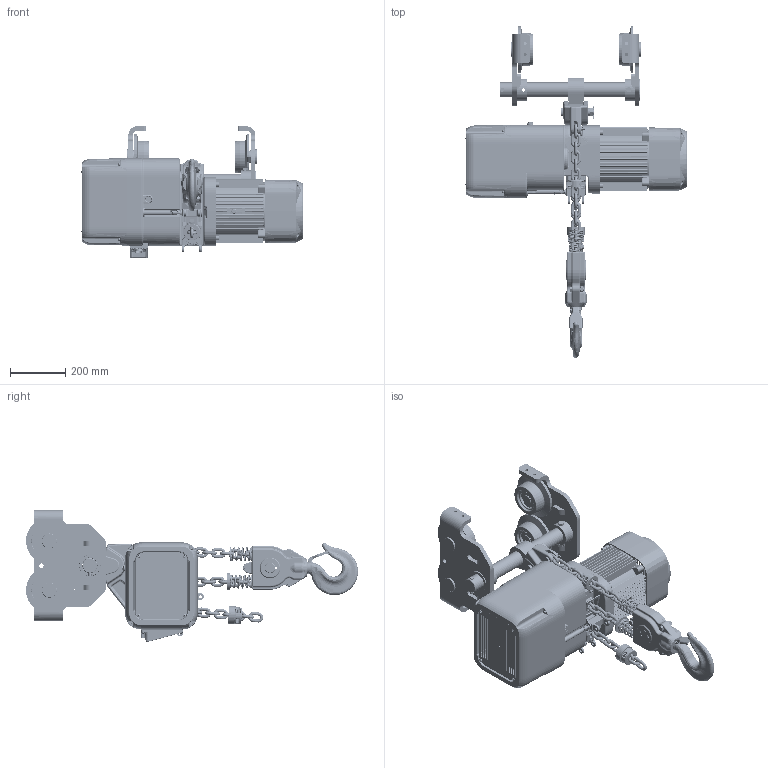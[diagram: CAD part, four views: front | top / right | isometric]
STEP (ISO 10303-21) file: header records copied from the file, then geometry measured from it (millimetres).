
FILE_DESCRIPTION (( 'STEP AP214' ), '1' );
FILE_NAME ('NER2P050LD.STEP', '2026-08-11T12:28:07', ( '' ), ( '' ), 'SwSTEP 2.0', 'SolidWorks 2026', '' );
FILE_SCHEMA (( 'AUTOMOTIVE_DESIGN' ));
Length unit declared in the file: inch
Products named in the file (78): LCER2025NP; M2049030_M2049030; ER2EI2523; 70214; ER2FS9101; ER2FS9338; split pin (metric) as; 90912116_90912116; basic internal retaining ring_am_PreviewCfg; ER2FS9105; hexagon slotted nut low_1_jis_T3G154075; ER2FR1002; 6307Z Bearing; J1AP24001212; 50995; M6SE050S9103; ER2FR9015; ER2EI4511; ER2FR2015; single coil rectangular section spring washer_bsi_9012711; 9012713_9012713; 9009424_9009424; ER2CS9511; ES041050; ER2FR9030; ER2ES9107_ER2ES9107; 9009437_9009437; ER2FI9104_ER2FI9104; ER1BS9135; ER2FS6121; ER2FI2104; socket head cap screw_am_9091274; ER1ES1041; Spring Lock Washer for M4; T5GA0505112; NER2P050LD; external tooth lock washer_am_PreviewCfg; T5GA0509113; M6SE050S9164; ER2EI2564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
Assembly tree (171 placements, depth 5):
  NER2P050LD
    PTS2050_15.1" FLANGE
      T5GA0505112  x2
        T5GA0509112
        T5GA0509113
        M6SE050S9103
      T3P1102050  x4
        T3GA0509102
        basic internal retaining ring_am_PreviewCfg
        6307Z Bearing
      MS104050  x4
      9047135_9047135  x4
      M6SE050S9164
      M6SE050S9161
      split pin (metric) as
      split pin (metric) as_9009423
      hexagon slotted nut low_1_jis_T3G154075
      70147XX_7014707
    NER2050LD_MANUAL TROLLEY PERP LUG MOUNT
      ER2FI2104
        ER2FI9104_ER2FI9104
        ER2EI9185_ER2EI9185
        J1AP24001212  x4
          Spring Lock Washer for M4
          pan cross head_am_B18.6.7M - M6 x 1.0 x 16 Type I Cross Recessed PHMS --16N
      ER2FS9103
      ER2FS9101
      ER2FS9105
      ER2ES9107_ER2ES9107
      ER2FS9331
      ER2FS9338
      ER2FS9337
      ER2CS9357
      single coil rectangular section spring washer_bsi_9012711  x4
      socket head cap screw_am_9091274  x4
      9091255_9091255  x4
      90912116_90912116  x4
      external tooth lock washer_am_PreviewCfg  x4
      9091254_9091254  x4
      ES127005S
      ER1BS9135
      E3S112003
      E3S111003
      ER2FR9030
      ER2EI4511
        ER2CS9511
        MS561010  x8
        ER2EI2523
        ER2EI2564
        ES558003  x8
      ER2FR1011
        ER2FR9011
        ER2FR1002
        ER2FR2015
          ER2FR9015  x2
          9093146_9093146  x3
          9012713_9012713  x3
          9093433_9093433  x3
      ER1EM9051  x2
      ER2FS6121
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Bounding box: 800.07 x 1200.42 x 475.5 mm (x, y, z)
Volume: 47976586.6 mm3; surface area: 3972406.1 mm2
Topology: 187 solids, 207 shells, 8975 faces, 22782 edges, 14236 vertices
Faces by surface type: plane 3467, cylinder 3069, torus 959, bspline 656, cone 565, sphere 259
Entity records: 221903 total; most frequent: CARTESIAN_POINT 82063, DIRECTION 28249, ORIENTED_EDGE 27868, EDGE_CURVE 13936, AXIS2_PLACEMENT_3D 11033, VERTEX_POINT 8758, LINE 6183, VECTOR 6183
